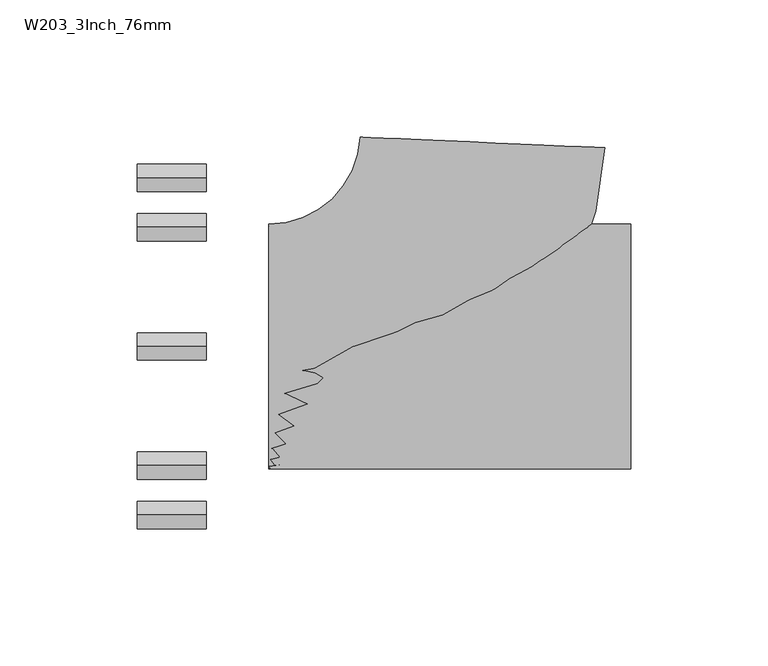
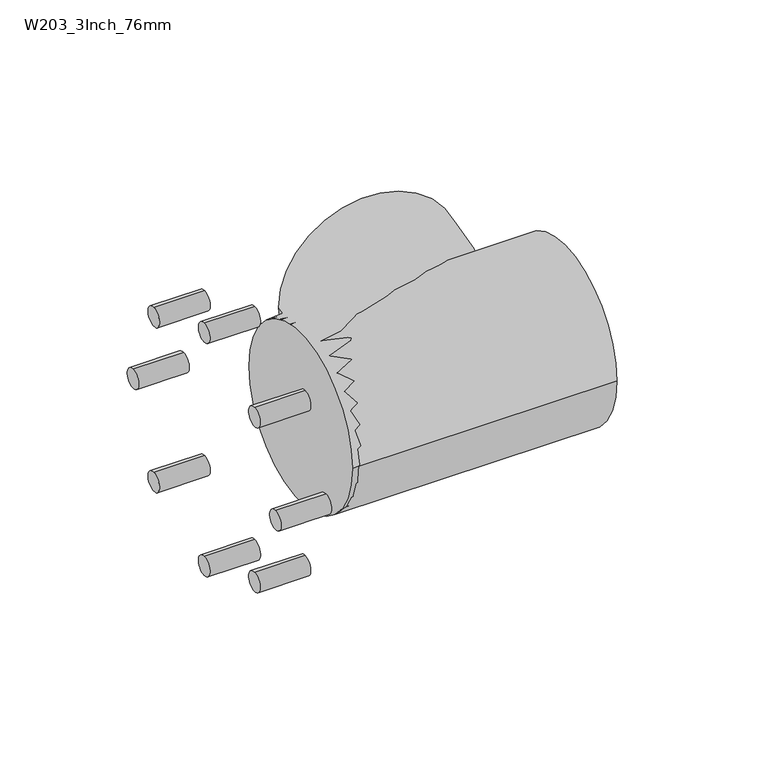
"""IFC4 building model written with IfcOpenShell, lengths in millimetres: pipe fitting geometry, Durapipe_PipeFitting_VulcatheneMechanical_92.5EqualSweepTee_W20 : W203_3Inch_76mm."""

from ifc_helpers import new_model, si_unit, point, frame, frame_2d, origin, place, context, project, spatial, circle_curve, ellipse_curve, trimmed, segment, composite_curve, outline, extrude, source, transform, mapped, element, save
from ifc_brep_helpers import plane_surface, cylinder_surface, revolved_surface, advanced_brep


def w203_3inch_76mm_561039bf(model_context):
    return source(origin(), model_context, "Body", "SolidModel", [
        extrude(outline(composite_curve([segment(trimmed(circle_curve(frame_2d((61.5, 0.0)), 5.0), [point((61.5, -5.0))], [point((61.5, 5.0))], False, "CARTESIAN"), True, "CONTINUOUS"), segment(trimmed(circle_curve(frame_2d((61.5, 0.0)), 5.0), [point((61.5, 5.0))], [point((61.5, -5.0))], False, "CARTESIAN"), True, "CONTINUOUS")], self_intersect=False)), frame((-122.6730267, 0.0, 0.0), z_axis=(1.0, 0.0, 0.0), x_axis=(0.0, 1.0, 0.0)), (0.0, 0.0, 1.0), 25.2),
        extrude(outline(composite_curve([segment(trimmed(circle_curve(frame_2d((43.487067, 43.487067)), 5.0), [point((43.487067, 38.487067))], [point((43.487067, 48.487067))], False, "CARTESIAN"), True, "CONTINUOUS"), segment(trimmed(circle_curve(frame_2d((43.487067, 43.487067)), 5.0), [point((43.487067, 48.487067))], [point((43.487067, 38.487067))], False, "CARTESIAN"), True, "CONTINUOUS")], self_intersect=False)), frame((-122.6730267, 0.0, 0.0), z_axis=(1.0, 0.0, 0.0), x_axis=(0.0, 1.0, 0.0)), (0.0, 0.0, 1.0), 25.2),
        extrude(outline(composite_curve([segment(trimmed(circle_curve(frame_2d((0.0, 61.5)), 5.0), [point((0.0, 56.5))], [point((0.0, 66.5))], False, "CARTESIAN"), True, "CONTINUOUS"), segment(trimmed(circle_curve(frame_2d((0.0, 61.5)), 5.0), [point((0.0, 66.5))], [point((0.0, 56.5))], False, "CARTESIAN"), True, "CONTINUOUS")], self_intersect=False)), frame((-122.6730267, 0.0, 0.0), z_axis=(1.0, 0.0, 0.0), x_axis=(0.0, 1.0, 0.0)), (0.0, 0.0, 1.0), 25.2),
        extrude(outline(composite_curve([segment(trimmed(circle_curve(frame_2d((-43.487067, 43.487067)), 5.0), [point((-43.487067, 38.487067))], [point((-43.487067, 48.487067))], False, "CARTESIAN"), True, "CONTINUOUS"), segment(trimmed(circle_curve(frame_2d((-43.487067, 43.487067)), 5.0), [point((-43.487067, 48.487067))], [point((-43.487067, 38.487067))], False, "CARTESIAN"), True, "CONTINUOUS")], self_intersect=False)), frame((-122.6730267, 0.0, 0.0), z_axis=(1.0, 0.0, 0.0), x_axis=(0.0, 1.0, 0.0)), (0.0, 0.0, 1.0), 25.2),
        extrude(outline(composite_curve([segment(trimmed(circle_curve(frame_2d((-61.5, 0.0)), 5.0), [point((-61.5, -5.0))], [point((-61.5, 5.0))], False, "CARTESIAN"), True, "CONTINUOUS"), segment(trimmed(circle_curve(frame_2d((-61.5, 0.0)), 5.0), [point((-61.5, 5.0))], [point((-61.5, -5.0))], False, "CARTESIAN"), True, "CONTINUOUS")], self_intersect=False)), frame((-122.6730267, 0.0, 0.0), z_axis=(1.0, 0.0, 0.0), x_axis=(0.0, 1.0, 0.0)), (0.0, 0.0, 1.0), 25.2),
        extrude(outline(composite_curve([segment(trimmed(circle_curve(frame_2d((-43.487067, -43.487067)), 5.0), [point((-43.487067, -48.487067))], [point((-43.487067, -38.487067))], False, "CARTESIAN"), True, "CONTINUOUS"), segment(trimmed(circle_curve(frame_2d((-43.487067, -43.487067)), 5.0), [point((-43.487067, -38.487067))], [point((-43.487067, -48.487067))], False, "CARTESIAN"), True, "CONTINUOUS")], self_intersect=False)), frame((-122.6730267, 0.0, 0.0), z_axis=(1.0, 0.0, 0.0), x_axis=(0.0, 1.0, 0.0)), (0.0, 0.0, 1.0), 25.2),
        extrude(outline(composite_curve([segment(trimmed(circle_curve(frame_2d((0.0, -61.5)), 5.0), [point((0.0, -66.5))], [point((0.0, -56.5))], False, "CARTESIAN"), True, "CONTINUOUS"), segment(trimmed(circle_curve(frame_2d((0.0, -61.5)), 5.0), [point((0.0, -56.5))], [point((0.0, -66.5))], False, "CARTESIAN"), True, "CONTINUOUS")], self_intersect=False)), frame((-122.6730267, 0.0, 0.0), z_axis=(1.0, 0.0, 0.0), x_axis=(0.0, 1.0, 0.0)), (0.0, 0.0, 1.0), 25.2),
        extrude(outline(composite_curve([segment(trimmed(circle_curve(frame_2d((43.487067, -43.487067)), 5.0), [point((43.487067, -48.487067))], [point((43.487067, -38.487067))], False, "CARTESIAN"), True, "CONTINUOUS"), segment(trimmed(circle_curve(frame_2d((43.487067, -43.487067)), 5.0), [point((43.487067, -38.487067))], [point((43.487067, -48.487067))], False, "CARTESIAN"), True, "CONTINUOUS")], self_intersect=False)), frame((-122.6730267, 0.0, 0.0), z_axis=(1.0, 0.0, 0.0), x_axis=(0.0, 1.0, 0.0)), (0.0, 0.0, 1.0), 25.2),
        advanced_brep(
        [(-74.5730267, -44.65, 0.0), (-74.5730267, 44.65, 0.0), (47.8603328, 72.5544441, 0.0), (-41.3546734, 76.4496554, 0.0)],
        [
            (0, 1, circle_curve(frame((-74.5730267, 0.0, 0.0), z_axis=(-1.0, 0.0, 0.0), x_axis=(0.0, 1.0, 0.0)), 44.65)),
            (1, 0, circle_curve(frame((-74.5730267, 0.0, 0.0), z_axis=(-1.0, 0.0, 0.0), x_axis=(0.0, 1.0, 0.0)), 44.65)),
            (2, 3, circle_curve(frame((3.2528297, 74.5020497, 0.0), z_axis=(0.0436193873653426, 0.9990482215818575, 0.0), x_axis=(-0.9990482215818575, 0.0436193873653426, 0.0)), 44.65)),
            (3, 2, circle_curve(frame((3.2528297, 74.5020497, 0.0), z_axis=(0.0436193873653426, 0.9990482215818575, 0.0), x_axis=(-0.9990482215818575, 0.0436193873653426, 0.0)), 44.65)),
            (3, 1, circle_curve(frame((-74.5730267, 77.9, 0.0), z_axis=(0.0, 0.0, -1.0), x_axis=(0.0, -1.0, 0.0)), 33.25)),
            (0, 2, circle_curve(frame((-74.5730267, 77.9, 0.0), z_axis=(0.0, 0.0, 1.0), x_axis=(0.0, -1.0, 0.0)), 122.55)),
        ],
        [
            plane_surface(frame((-74.5730267, 0.0, 0.0), z_axis=(-1.0, 0.0, 0.0), x_axis=(0.0, 0.0, 1.0))),
            plane_surface(frame((3.2528297, 74.5020497, 0.0), z_axis=(0.04361938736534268, 0.9990482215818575, 0.0), x_axis=(0.0, 0.0, 1.0))),
            revolved_surface(trimmed(ellipse_curve(frame((-74.5730267, 0.0, 0.0), z_axis=(-1.0, 0.0, 0.0), x_axis=(0.0, 1.0, 0.0)), 44.65, 44.65), [point((-74.5730267, -44.65, 0.0))], [point((-74.5730267, 44.65, 0.0))], True, "CARTESIAN"), (-74.5730267, 77.9, 0.0), (0.0, 0.0, 1.0)),
            revolved_surface(trimmed(ellipse_curve(frame((-74.5730267, 0.0, 0.0), z_axis=(-1.0, 0.0, 0.0), x_axis=(0.0, 1.0, 0.0)), 44.65, 44.65), [point((-74.5730267, 44.65, 0.0))], [point((-74.5730267, -44.65, 0.0))], True, "CARTESIAN"), (-74.5730267, 77.9, 0.0), (0.0, 0.0, 1.0)),
        ],
        [
            (0, [[1, 2]]),
            (1, [[3, 4]]),
            (2, [[5, -1, 6, -4]]),
            (3, [[-6, -2, -5, -3]]),
        ],
    ),
        advanced_brep(
        [(-74.5730267, -44.65, 0.0), (-74.5730267, 44.65, 0.0), (57.4269733, 44.65, 0.0), (57.4269733, -44.65, 0.0), (-74.5730267, 0.0, 0.0), (57.4269733, 0.0, 0.0)],
        [
            (0, 1, circle_curve(frame((-74.5730267, 0.0, 0.0), z_axis=(1.0, 0.0, 0.0), x_axis=(0.0, 1.0, 0.0)), 44.65)),
            (1, 2),
            (2, 3, circle_curve(frame((57.4269733, 0.0, 0.0), z_axis=(-1.0, 0.0, 0.0), x_axis=(0.0, 1.0, 0.0)), 44.65)),
            (3, 0),
            (1, 0, circle_curve(frame((-74.5730267, 0.0, 0.0), z_axis=(1.0, 0.0, 0.0), x_axis=(0.0, 1.0, 0.0)), 44.65)),
            (3, 2, circle_curve(frame((57.4269733, 0.0, 0.0), z_axis=(-1.0, 0.0, 0.0), x_axis=(0.0, 1.0, 0.0)), 44.65)),
            (4, 1),
            (0, 4),
            (2, 5),
            (5, 3),
        ],
        [
            cylinder_surface(frame((126.8269733, 0.0, 0.0), z_axis=(-1.0, 0.0, 0.0), x_axis=(0.0, 1.0, 0.0)), 44.65),
            plane_surface(frame((-74.5730267, 0.0, 0.0), z_axis=(-1.0, 0.0, 0.0), x_axis=(0.0, 1.0, 0.0))),
            plane_surface(frame((57.4269733, 0.0, 0.0), z_axis=(1.0, 0.0, 0.0), x_axis=(0.0, 1.0, 0.0))),
        ],
        [
            (0, [[1, 2, 3, 4]]),
            (0, [[5, -4, 6, -2]]),
            (1, [[7, -1, 8]]),
            (1, [[-8, -5, -7]]),
            (2, [[-3, 9, 10]]),
            (2, [[-6, -10, -9]]),
        ],
    ),
    ])


if __name__ == "__main__":
    model = new_model("IFC4")
    model_context = context("Model", 3, world=origin())
    ifc_project = project(units=[si_unit("LENGTHUNIT", "METRE", prefix="MILLI")], contexts=[model_context])
    site = spatial("IfcSite", under=ifc_project)
    building = spatial("IfcBuilding", under=site)
    placement = place(None, origin())
    w203_3inch_76mm_shape = w203_3inch_76mm_561039bf(model_context)
    element("IfcPipeFitting", 1, ObjectType="Durapipe_PipeFitting_VulcatheneMechanical_92.5EqualSweepTee_W20 : W203_3Inch_76mm", at=placement, inside=building, context=model_context, shape_type="MappedRepresentation", body=[
        mapped(w203_3inch_76mm_shape, transform((0.0, 0.0, 0.0), x_axis=(1.0, 0.0, 0.0), y_axis=(0.0, 1.0, 0.0), z_axis=(0.0, 0.0, 1.0))),
    ])
    save(model, "model.ifc")
